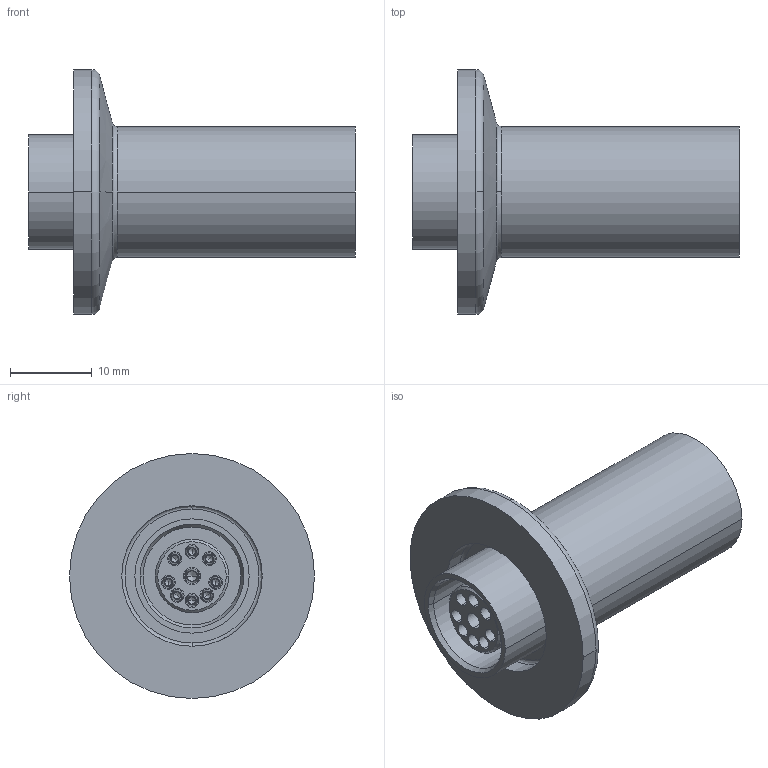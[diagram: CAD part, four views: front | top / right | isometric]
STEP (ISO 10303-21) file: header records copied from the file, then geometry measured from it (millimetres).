
FILE_DESCRIPTION((''),'2;1');
FILE_NAME('N:\Transfer\Berger Martin\Leybold\C13\210304.stp','2005-02-09T11:02:59',('PESO'),(''),'Autodesk Inventor 9','Autodesk Inventor 9','');
FILE_SCHEMA(('AUTOMOTIVE_DESIGN { 1 0 10303 214 1 1 1 1 }'));
Length unit declared in the file: millimetre
Products named in the file (1): 210304
Bounding box: 40 x 30 x 30 mm (x, y, z)
Volume: 7288.4 mm3; surface area: 6969.6 mm2
Topology: 1 solids, 1 shells, 327 faces, 823 edges, 501 vertices
Faces by surface type: cylinder 102, plane 95, cone 84, bspline 44, torus 2
Entity records: 10471 total; most frequent: CARTESIAN_POINT 2644, DIRECTION 1802, ORIENTED_EDGE 1574, EDGE_CURVE 787, AXIS2_PLACEMENT_3D 763, VERTEX_POINT 501, CIRCLE 407, EDGE_LOOP 366
